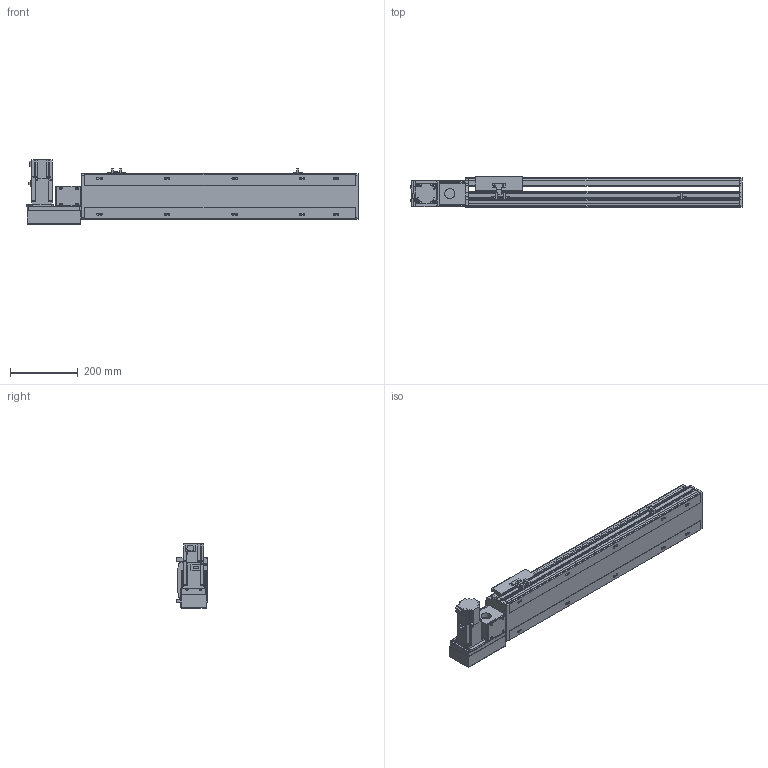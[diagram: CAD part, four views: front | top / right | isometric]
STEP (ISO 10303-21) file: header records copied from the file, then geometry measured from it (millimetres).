
FILE_DESCRIPTION( ( 'STEP AP214' ), '1' );
FILE_NAME( 'x:/temp/worker_6/temp/exporttempdir_5396_7_W8CrX/format_0/PBS140S-P40-S550-L-T40-C1-N(0).stp', '2022-06-09T00:00:47', ( 'License CC BY-ND 4.0' ), ( 'CADENAS' ), ' ', 'PARTsolutions', ' ' );
FILE_SCHEMA( ( 'AUTOMOTIVE_DESIGN { 1 0 10303 214 1 1 1 1 }' ) );
Length unit declared in the file: millimetre
Products named in the file (7): PBS140S-P40-S550-L-T40-C1-N(0); _PBS140S-S550()_body; _PBS140ST-L_motors; _T40-p1; _PBS140S_sliser; _PBS140S_plant; _PBS140S_sensor
Assembly tree (8 placements, depth 2):
  PBS140S-P40-S550-L-T40-C1-N(0)
    _PBS140S-S550()_body
    _PBS140ST-L_motors
    _T40-p1
    _PBS140S_sliser
    _PBS140S_plant
    _PBS140S_sensor  x3
Bounding box: 983 x 93 x 189.7 mm (x, y, z)
Volume: 4989762.7 mm3; surface area: 883988.2 mm2
Topology: 8 solids, 8 shells, 1051 faces, 2791 edges, 1827 vertices
Faces by surface type: plane 684, cylinder 321, cone 36, sphere 8, torus 2
Full cylindrical faces by diameter (mm): 3.242 x4, 4 x2, 4.134 x4, 4.4 x8, 4.5 x2, 4.8 x4, 4.917 x18, 5.5 x7, 6 x2, 7 x12, 7.5 x8, 8 x12, 8.5 x4, 10.5 x10, 14 x1, 30 x2, 50 x2
Entity records: 38410 total; most frequent: CARTESIAN_POINT 5902, DIRECTION 5138, ORIENTED_EDGE 4882, EDGE_CURVE 2441, AXIS2_PLACEMENT_3D 1769, VERTEX_POINT 1681, LINE 1600, VECTOR 1600
